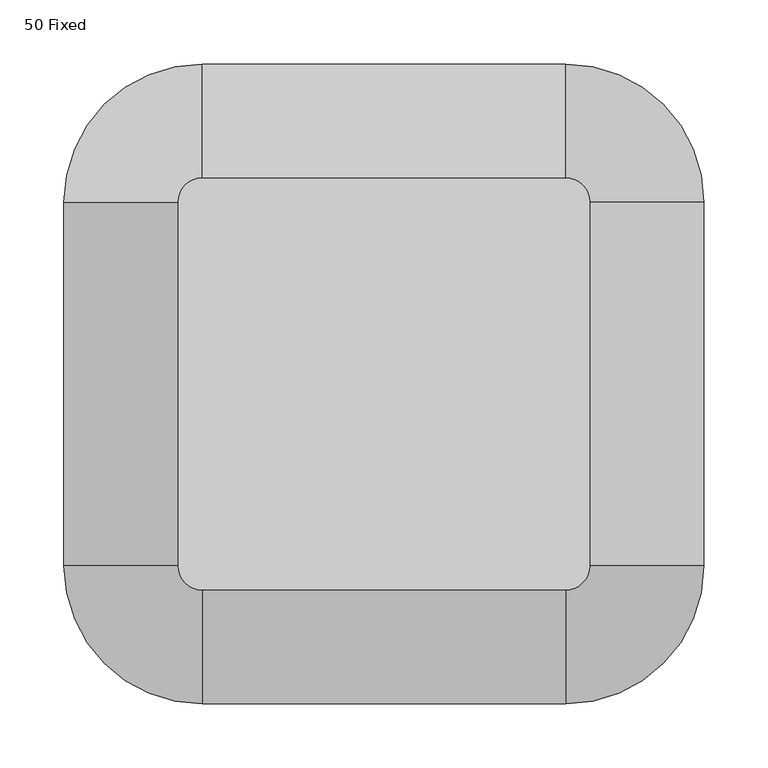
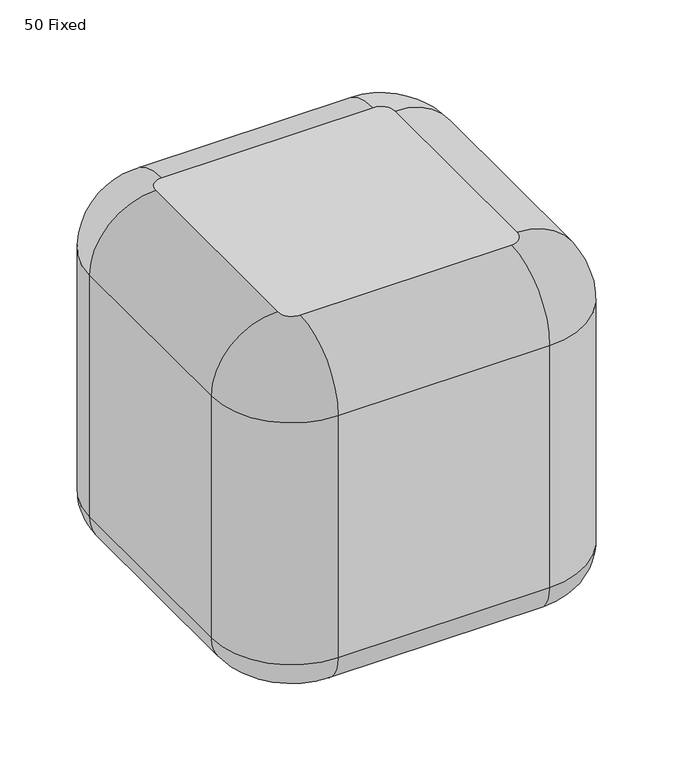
"""IFC4 building model written with IfcOpenShell, lengths in millimetres: furniture geometry, Viccarbe - Season - Mini : 50 Fixed."""

from ifc_helpers import new_model, si_unit, point, frame, frame_2d, origin, origin_with_axes, place, context, project, spatial, polyline, circle_curve, ellipse_curve, trimmed, segment, composite_curve, outline, extrude, source, transform, mapped, element, save
from ifc_brep_helpers import plane_surface, cylinder_surface, revolved_surface, advanced_brep


def furniture_50_fixed_aa59876e(model_context):
    return source(origin(), model_context, "Body", "SolidModel", [
        advanced_brep(
        [(107.95, -500.0, 57.7439538), (0.0, -392.05, 57.7439538), (50.8, -392.05, 6.9439538), (107.95, -449.2, 6.9439538), (107.95, -500.0, 401.1), (0.0, -392.05, 401.1), (107.95, -411.1, 490.0), (88.9, -392.05, 490.0), (392.05, -449.2, 6.9439538), (392.05, -500.0, 57.7439538), (392.05, -500.0, 401.1), (392.05, -411.1, 490.0), (449.2, -392.05, 6.9439538), (500.0, -392.05, 57.7439538), (500.0, -392.05, 401.1), (411.1, -392.05, 490.0), (449.2, -107.95, 6.9439538), (500.0, -107.95, 57.7439538), (500.0, -107.95, 401.1), (411.1, -107.95, 490.0), (392.05, -50.8, 6.9439538), (392.05, 0.0, 57.7439538), (392.05, 0.0, 401.1), (392.05, -88.9, 490.0), (107.95, -50.8, 6.9439538), (107.95, 0.0, 57.7439538), (107.95, 0.0, 401.1), (107.95, -88.9, 490.0), (50.8, -107.95, 6.9439538), (0.0, -107.95, 57.7439538), (0.0, -107.95, 401.1), (88.9, -107.95, 490.0), (63.5, -417.45, 6.9439538), (82.55, -436.5, 6.9439538), (417.45, -436.5, 6.9439538), (436.5, -417.45, 6.9439538), (436.5, -82.55, 6.9439538), (417.45, -63.5, 6.9439538), (82.55, -63.5, 6.9439538), (63.5, -82.55, 6.9439538), (63.5, -417.45, 45.1808061), (63.5, -82.55, 45.1808061), (82.55, -63.5, 45.1808061), (417.45, -63.5, 45.1808061), (436.5, -82.55, 45.1808061), (436.5, -417.45, 45.1808061), (417.45, -436.5, 45.1808061), (82.55, -436.5, 45.1808061)],
        [
            (0, 1, circle_curve(frame((107.95, -392.05, 57.7439538), z_axis=(0.0, 0.0, -1.0), x_axis=(-1.0, 0.0, 0.0)), 107.95)),
            (1, 2, circle_curve(frame((50.8, -392.05, 57.7439538), z_axis=(0.0, -1.0, 0.0), x_axis=(1.0, 0.0, 0.0)), 50.8)),
            (2, 3, circle_curve(frame((107.95, -392.05, 6.9439538), z_axis=(0.0, 0.0, 1.0), x_axis=(-1.0, 0.0, 0.0)), 57.15)),
            (3, 0, circle_curve(frame((107.95, -449.2, 57.7439538), z_axis=(-1.0, 0.0, 0.0), x_axis=(0.0, 1.0, 0.0)), 50.8)),
            (0, 4),
            (4, 5, circle_curve(frame((107.95, -392.05, 401.1), z_axis=(0.0, 0.0, -1.0), x_axis=(-1.0, 0.0, 0.0)), 107.95)),
            (5, 1),
            (4, 6, circle_curve(frame((107.95, -411.1, 401.1), z_axis=(-1.0, 0.0, 0.0), x_axis=(0.0, 1.0, 0.0)), 88.9)),
            (6, 7, circle_curve(frame((107.95, -392.05, 490.0), z_axis=(0.0, 0.0, -1.0), x_axis=(-1.0, 0.0, 0.0)), 19.05)),
            (7, 5, circle_curve(frame((88.9, -392.05, 401.1), z_axis=(0.0, -1.0, 0.0), x_axis=(1.0, 0.0, 0.0)), 88.9)),
            (3, 8),
            (8, 9, circle_curve(frame((392.05, -449.2, 57.7439538), z_axis=(-1.0, 0.0, 0.0), x_axis=(0.0, 1.0, 0.0)), 50.8)),
            (9, 0),
            (9, 10),
            (10, 4),
            (10, 11, circle_curve(frame((392.05, -411.1, 401.1), z_axis=(-1.0, 0.0, 0.0), x_axis=(0.0, 1.0, 0.0)), 88.9)),
            (11, 6),
            (8, 12, circle_curve(frame((392.05, -392.05, 6.9439538), z_axis=(0.0, 0.0, 1.0), x_axis=(0.0, -1.0, 0.0)), 57.15)),
            (12, 13, circle_curve(frame((449.2, -392.05, 57.7439538), z_axis=(0.0, -1.0, 0.0), x_axis=(-1.0, 0.0, 0.0)), 50.8)),
            (13, 9, circle_curve(frame((392.05, -392.05, 57.7439538), z_axis=(0.0, 0.0, -1.0), x_axis=(0.0, -1.0, 0.0)), 107.95)),
            (13, 14),
            (14, 10, circle_curve(frame((392.05, -392.05, 401.1), z_axis=(0.0, 0.0, -1.0), x_axis=(0.0, -1.0, 0.0)), 107.95)),
            (14, 15, circle_curve(frame((411.1, -392.05, 401.1), z_axis=(0.0, -1.0, 0.0), x_axis=(-1.0, 0.0, 0.0)), 88.9)),
            (15, 11, circle_curve(frame((392.05, -392.05, 490.0), z_axis=(0.0, 0.0, -1.0), x_axis=(0.0, -1.0, 0.0)), 19.05)),
            (12, 16),
            (16, 17, circle_curve(frame((449.2, -107.95, 57.7439538), z_axis=(0.0, -1.0, 0.0), x_axis=(-1.0, 0.0, 0.0)), 50.8)),
            (17, 13),
            (17, 18),
            (18, 14),
            (18, 19, circle_curve(frame((411.1, -107.95, 401.1), z_axis=(0.0, -1.0, 0.0), x_axis=(-1.0, 0.0, 0.0)), 88.9)),
            (19, 15),
            (16, 20, circle_curve(frame((392.05, -107.95, 6.9439538), z_axis=(0.0, 0.0, 1.0), x_axis=(1.0, 0.0, 0.0)), 57.15)),
            (20, 21, circle_curve(frame((392.05, -50.8, 57.7439538), z_axis=(1.0, 0.0, 0.0), x_axis=(0.0, -1.0, 0.0)), 50.8)),
            (21, 17, circle_curve(frame((392.05, -107.95, 57.7439538), z_axis=(0.0, 0.0, -1.0), x_axis=(1.0, 0.0, 0.0)), 107.95)),
            (21, 22),
            (22, 18, circle_curve(frame((392.05, -107.95, 401.1), z_axis=(0.0, 0.0, -1.0), x_axis=(1.0, 0.0, 0.0)), 107.95)),
            (22, 23, circle_curve(frame((392.05, -88.9, 401.1), z_axis=(1.0, 0.0, 0.0), x_axis=(0.0, -1.0, 0.0)), 88.9)),
            (23, 19, circle_curve(frame((392.05, -107.95, 490.0), z_axis=(0.0, 0.0, -1.0), x_axis=(1.0, 0.0, 0.0)), 19.05)),
            (20, 24),
            (24, 25, circle_curve(frame((107.95, -50.8, 57.7439538), z_axis=(1.0, 0.0, 0.0), x_axis=(0.0, -1.0, 0.0)), 50.8)),
            (25, 21),
            (25, 26),
            (26, 22),
            (26, 27, circle_curve(frame((107.95, -88.9, 401.1), z_axis=(1.0, 0.0, 0.0), x_axis=(0.0, -1.0, 0.0)), 88.9)),
            (27, 23),
            (24, 28, circle_curve(frame((107.95, -107.95, 6.9439538), z_axis=(0.0, 0.0, 1.0), x_axis=(0.0, 1.0, 0.0)), 57.15)),
            (28, 29, circle_curve(frame((50.8, -107.95, 57.7439538), z_axis=(0.0, 1.0, 0.0), x_axis=(1.0, 0.0, 0.0)), 50.8)),
            (29, 25, circle_curve(frame((107.95, -107.95, 57.7439538), z_axis=(0.0, 0.0, -1.0), x_axis=(0.0, 1.0, 0.0)), 107.95)),
            (29, 30),
            (30, 26, circle_curve(frame((107.95, -107.95, 401.1), z_axis=(0.0, 0.0, -1.0), x_axis=(0.0, 1.0, 0.0)), 107.95)),
            (30, 31, circle_curve(frame((88.9, -107.95, 401.1), z_axis=(0.0, 1.0, 0.0), x_axis=(1.0, 0.0, 0.0)), 88.9)),
            (31, 27, circle_curve(frame((107.95, -107.95, 490.0), z_axis=(0.0, 0.0, -1.0), x_axis=(0.0, 1.0, 0.0)), 19.05)),
            (2, 28),
            (32, 33, circle_curve(frame((82.55, -417.45, 6.9439538), z_axis=(0.0, 0.0, 1.0), x_axis=(1.0, 0.0, 0.0)), 19.05)),
            (33, 34),
            (34, 35, circle_curve(frame((417.45, -417.45, 6.9439538), z_axis=(0.0, 0.0, 1.0), x_axis=(1.0, 0.0, 0.0)), 19.05)),
            (35, 36),
            (36, 37, circle_curve(frame((417.45, -82.55, 6.9439538), z_axis=(0.0, 0.0, 1.0), x_axis=(1.0, 0.0, 0.0)), 19.05)),
            (37, 38),
            (38, 39, circle_curve(frame((82.55, -82.55, 6.9439538), z_axis=(0.0, 0.0, 1.0), x_axis=(1.0, 0.0, 0.0)), 19.05)),
            (39, 32),
            (1, 29),
            (5, 30),
            (7, 31),
            (40, 41),
            (41, 42, circle_curve(frame((82.55, -82.55, 45.1808061), z_axis=(0.0, 0.0, -1.0), x_axis=(1.0, 0.0, 0.0)), 19.05)),
            (42, 43),
            (43, 44, circle_curve(frame((417.45, -82.55, 45.1808061), z_axis=(0.0, 0.0, -1.0), x_axis=(1.0, 0.0, 0.0)), 19.05)),
            (44, 45),
            (45, 46, circle_curve(frame((417.45, -417.45, 45.1808061), z_axis=(0.0, 0.0, -1.0), x_axis=(1.0, 0.0, 0.0)), 19.05)),
            (46, 47),
            (47, 40, circle_curve(frame((82.55, -417.45, 45.1808061), z_axis=(0.0, 0.0, -1.0), x_axis=(1.0, 0.0, 0.0)), 19.05)),
            (47, 33),
            (32, 40),
            (46, 34),
            (45, 35),
            (44, 36),
            (43, 37),
            (42, 38),
            (41, 39),
        ],
        [
            revolved_surface(trimmed(ellipse_curve(frame((50.8, -392.05, 57.7439538), z_axis=(0.0, 1.0, 0.0), x_axis=(1.0, 0.0, 0.0)), 50.8, 50.8), [point((50.8, -392.05, 6.9439538))], [point((0.0, -392.05, 57.7439538))], True, "CARTESIAN"), (107.95, -392.05, 0.0), (0.0, 0.0, 1.0)),
            cylinder_surface(frame((107.95, -392.05, 0.0), z_axis=(0.0, 0.0, 1.0), x_axis=(-1.0, 0.0, 0.0)), 107.95),
            revolved_surface(trimmed(ellipse_curve(frame((88.9, -392.05, 401.1), z_axis=(0.0, 1.0, 0.0), x_axis=(1.0, 0.0, 0.0)), 88.9, 88.9), [point((0.0, -392.05, 401.1))], [point((88.9, -392.05, 490.0))], True, "CARTESIAN"), (107.95, -392.05, 0.0), (0.0, 0.0, 1.0)),
            cylinder_surface(frame((107.95, -449.2, 57.7439538), z_axis=(-1.0, 0.0, 0.0), x_axis=(0.0, 1.0, 0.0)), 50.8),
            plane_surface(frame((107.95, -500.0, 57.7439538), z_axis=(0.0, -1.0, 0.0), x_axis=(1.0, 0.0, 0.0))),
            cylinder_surface(frame((107.95, -411.1, 401.1), z_axis=(-1.0, 0.0, 0.0), x_axis=(0.0, 1.0, 0.0)), 88.9),
            revolved_surface(trimmed(ellipse_curve(frame((392.05, -449.2, 57.7439538), z_axis=(-1.0, 0.0, 0.0), x_axis=(0.0, 1.0, 0.0)), 50.8, 50.8), [point((392.05, -449.2, 6.9439538))], [point((392.05, -500.0, 57.7439538))], True, "CARTESIAN"), (392.05, -392.05, 0.0), (0.0, 0.0, 1.0)),
            cylinder_surface(frame((392.05, -392.05, 0.0), z_axis=(0.0, 0.0, 1.0), x_axis=(0.0, -1.0, 0.0)), 107.95),
            revolved_surface(trimmed(ellipse_curve(frame((392.05, -411.1, 401.1), z_axis=(-1.0, 0.0, 0.0), x_axis=(0.0, 1.0, 0.0)), 88.9, 88.9), [point((392.05, -500.0, 401.1))], [point((392.05, -411.1, 490.0))], True, "CARTESIAN"), (392.05, -392.05, 0.0), (0.0, 0.0, 1.0)),
            cylinder_surface(frame((449.2, -392.05, 57.7439538), z_axis=(0.0, -1.0, 0.0), x_axis=(-1.0, 0.0, 0.0)), 50.8),
            plane_surface(frame((500.0, -392.05, 57.7439538), z_axis=(1.0, 0.0, 0.0), x_axis=(0.0, 1.0, 0.0))),
            cylinder_surface(frame((411.1, -392.05, 401.1), z_axis=(0.0, -1.0, 0.0), x_axis=(-1.0, 0.0, 0.0)), 88.9),
            revolved_surface(trimmed(ellipse_curve(frame((449.2, -107.95, 57.7439538), z_axis=(0.0, -1.0, 0.0), x_axis=(-1.0, 0.0, 0.0)), 50.8, 50.8), [point((449.2, -107.95, 6.9439538))], [point((500.0, -107.95, 57.7439538))], True, "CARTESIAN"), (392.05, -107.95, 0.0), (0.0, 0.0, 1.0)),
            cylinder_surface(frame((392.05, -107.95, 0.0), z_axis=(0.0, 0.0, 1.0), x_axis=(1.0, 0.0, 0.0)), 107.95),
            revolved_surface(trimmed(ellipse_curve(frame((411.1, -107.95, 401.1), z_axis=(0.0, -1.0, 0.0), x_axis=(-1.0, 0.0, 0.0)), 88.9, 88.9), [point((500.0, -107.95, 401.1))], [point((411.1, -107.95, 490.0))], True, "CARTESIAN"), (392.05, -107.95, 0.0), (0.0, 0.0, 1.0)),
            cylinder_surface(frame((392.05, -50.8, 57.7439538), z_axis=(1.0, 0.0, 0.0), x_axis=(0.0, -1.0, 0.0)), 50.8),
            plane_surface(frame((392.05, 0.0, 57.7439538), z_axis=(0.0, 1.0, 0.0), x_axis=(-1.0, 0.0, 0.0))),
            cylinder_surface(frame((392.05, -88.9, 401.1), z_axis=(1.0, 0.0, 0.0), x_axis=(0.0, -1.0, 0.0)), 88.9),
            revolved_surface(trimmed(ellipse_curve(frame((107.95, -50.8, 57.7439538), z_axis=(1.0, 0.0, 0.0), x_axis=(0.0, -1.0, 0.0)), 50.8, 50.8), [point((107.95, -50.8, 6.9439538))], [point((107.95, 0.0, 57.7439538))], True, "CARTESIAN"), (107.95, -107.95, 0.0), (0.0, 0.0, 1.0)),
            cylinder_surface(frame((107.95, -107.95, 0.0), z_axis=(0.0, 0.0, 1.0), x_axis=(0.0, 1.0, 0.0)), 107.95),
            revolved_surface(trimmed(ellipse_curve(frame((107.95, -88.9, 401.1), z_axis=(1.0, 0.0, 0.0), x_axis=(0.0, -1.0, 0.0)), 88.9, 88.9), [point((107.95, 0.0, 401.1))], [point((107.95, -88.9, 490.0))], True, "CARTESIAN"), (107.95, -107.95, 0.0), (0.0, 0.0, 1.0)),
            plane_surface(frame((101.6, -107.95, 6.9439538), z_axis=(0.0, 0.0, -1.0), x_axis=(0.0, -1.0, 0.0))),
            cylinder_surface(frame((50.8, -107.95, 57.7439538), z_axis=(0.0, 1.0, 0.0), x_axis=(1.0, 0.0, 0.0)), 50.8),
            plane_surface(frame((0.0, -107.95, 57.7439538), z_axis=(-1.0, 0.0, 0.0), x_axis=(0.0, -1.0, 0.0))),
            cylinder_surface(frame((88.9, -107.95, 401.1), z_axis=(0.0, 1.0, 0.0), x_axis=(1.0, 0.0, 0.0)), 88.9),
            plane_surface(frame((88.9, -107.95, 490.0), z_axis=(0.0, 0.0, 1.0), x_axis=(0.0, -1.0, 0.0))),
            plane_surface(frame((101.6, -417.45, 45.1808061), z_axis=(0.0, 0.0, -1.0), x_axis=(0.0, 1.0, 0.0))),
            revolved_surface(polyline([(101.6, -417.45, 45.1808061), (101.6, -417.45, 6.9439538)]), (82.55, -417.45, 0.0), (0.0, 0.0, 1.0)),
            plane_surface(frame((82.55, -436.5, 45.1808061), z_axis=(0.0, 1.0, 0.0), x_axis=(0.0, 0.0, -1.0))),
            revolved_surface(polyline([(436.5, -417.45, 45.1808061), (436.5, -417.45, 6.9439538)]), (417.45, -417.45, 0.0), (0.0, 0.0, 1.0)),
            plane_surface(frame((436.5, -417.45, 45.1808061), z_axis=(-1.0, 0.0, 0.0), x_axis=(0.0, 0.0, -1.0))),
            revolved_surface(polyline([(436.5, -82.55, 45.1808061), (436.5, -82.55, 6.9439538)]), (417.45, -82.55, 0.0), (0.0, 0.0, 1.0)),
            plane_surface(frame((417.45, -63.5, 45.1808061), z_axis=(0.0, -1.0, 0.0), x_axis=(0.0, 0.0, -1.0))),
            revolved_surface(polyline([(101.6, -82.55, 45.1808061), (101.6, -82.55, 6.9439538)]), (82.55, -82.55, 0.0), (0.0, 0.0, 1.0)),
            plane_surface(frame((63.5, -82.55, 45.1808061), z_axis=(1.0, 0.0, 0.0), x_axis=(0.0, 0.0, -1.0))),
        ],
        [
            (0, [[1, 2, 3, 4]]),
            (1, [[-1, 5, 6, 7]]),
            (2, [[-6, 8, 9, 10]]),
            (3, [[-4, 11, 12, 13]]),
            (4, [[-5, -13, 14, 15]]),
            (5, [[-8, -15, 16, 17]]),
            (6, [[-12, 18, 19, 20]]),
            (7, [[-14, -20, 21, 22]]),
            (8, [[-16, -22, 23, 24]]),
            (9, [[-19, 25, 26, 27]]),
            (10, [[-21, -27, 28, 29]]),
            (11, [[-23, -29, 30, 31]]),
            (12, [[-26, 32, 33, 34]]),
            (13, [[-28, -34, 35, 36]]),
            (14, [[-30, -36, 37, 38]]),
            (15, [[-33, 39, 40, 41]]),
            (16, [[-35, -41, 42, 43]]),
            (17, [[-37, -43, 44, 45]]),
            (18, [[-40, 46, 47, 48]]),
            (19, [[-42, -48, 49, 50]]),
            (20, [[-44, -50, 51, 52]]),
            (21, [[-3, 53, -46, -39, -32, -25, -18, -11], [54, 55, 56, 57, 58, 59, 60, 61]]),
            (22, [[-2, 62, -47, -53]]),
            (23, [[-7, 63, -49, -62]]),
            (24, [[-10, 64, -51, -63]]),
            (25, [[-9, -17, -24, -31, -38, -45, -52, -64]]),
            (26, [[65, 66, 67, 68, 69, 70, 71, 72]]),
            (27, [[-72, 73, -54, 74]]),
            (28, [[-71, 75, -55, -73]]),
            (29, [[-70, 76, -56, -75]]),
            (30, [[-69, 77, -57, -76]]),
            (31, [[-68, 78, -58, -77]]),
            (32, [[-67, 79, -59, -78]]),
            (33, [[-66, 80, -60, -79]]),
            (34, [[-65, -74, -61, -80]]),
        ],
    ),
        extrude(outline(composite_curve([segment(trimmed(circle_curve(frame_2d((88.9, -88.9)), 19.05), [point((69.85, -88.9))], [point((107.95, -88.9))], False, "CARTESIAN"), True, "CONTINUOUS"), segment(trimmed(circle_curve(frame_2d((88.9, -88.9)), 19.05), [point((107.95, -88.9))], [point((69.85, -88.9))], False, "CARTESIAN"), True, "CONTINUOUS")], self_intersect=False)), origin_with_axes(), (0.0, 0.0, 1.0), 45.1808061),
        extrude(outline(composite_curve([segment(trimmed(circle_curve(frame_2d((411.1, -88.9)), 19.05), [point((392.05, -88.9))], [point((430.15, -88.9))], False, "CARTESIAN"), True, "CONTINUOUS"), segment(trimmed(circle_curve(frame_2d((411.1, -88.9)), 19.05), [point((430.15, -88.9))], [point((392.05, -88.9))], False, "CARTESIAN"), True, "CONTINUOUS")], self_intersect=False)), origin_with_axes(), (0.0, 0.0, 1.0), 45.1808061),
        extrude(outline(composite_curve([segment(trimmed(circle_curve(frame_2d((411.1, -411.1)), 19.05), [point((392.05, -411.1))], [point((430.15, -411.1))], False, "CARTESIAN"), True, "CONTINUOUS"), segment(trimmed(circle_curve(frame_2d((411.1, -411.1)), 19.05), [point((430.15, -411.1))], [point((392.05, -411.1))], False, "CARTESIAN"), True, "CONTINUOUS")], self_intersect=False)), origin_with_axes(), (0.0, 0.0, 1.0), 45.1808061),
        extrude(outline(composite_curve([segment(trimmed(circle_curve(frame_2d((88.9, -411.1)), 19.05), [point((69.85, -411.1))], [point((107.95, -411.1))], False, "CARTESIAN"), True, "CONTINUOUS"), segment(trimmed(circle_curve(frame_2d((88.9, -411.1)), 19.05), [point((107.95, -411.1))], [point((69.85, -411.1))], False, "CARTESIAN"), True, "CONTINUOUS")], self_intersect=False)), origin_with_axes(), (0.0, 0.0, 1.0), 45.1808061),
    ])


if __name__ == "__main__":
    model = new_model("IFC4")
    model_context = context("Model", 3, world=origin())
    ifc_project = project(units=[si_unit("LENGTHUNIT", "METRE", prefix="MILLI")], contexts=[model_context])
    site = spatial("IfcSite", under=ifc_project)
    building = spatial("IfcBuilding", under=site)
    placement = place(None, origin())
    furniture_50_fixed_shape = furniture_50_fixed_aa59876e(model_context)
    element("IfcFurniture", 1, ObjectType="Viccarbe - Season - Mini : 50 Fixed", at=placement, inside=building, context=model_context, shape_type="MappedRepresentation", body=[
        mapped(furniture_50_fixed_shape, transform((0.0, 0.0, 0.0), x_axis=(1.0, 0.0, 0.0), y_axis=(0.0, 1.0, 0.0), z_axis=(0.0, 0.0, 1.0))),
    ])
    save(model, "model.ifc")
